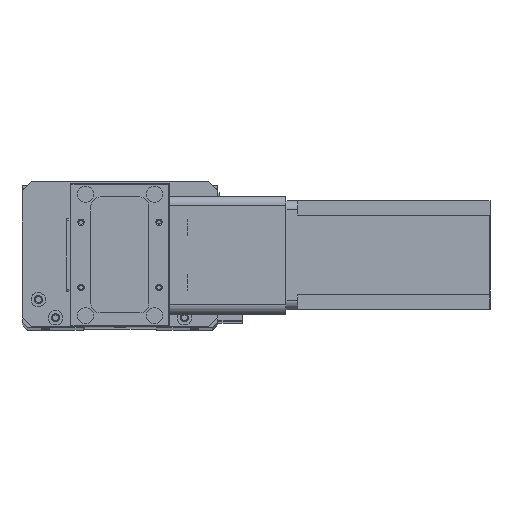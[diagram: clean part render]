
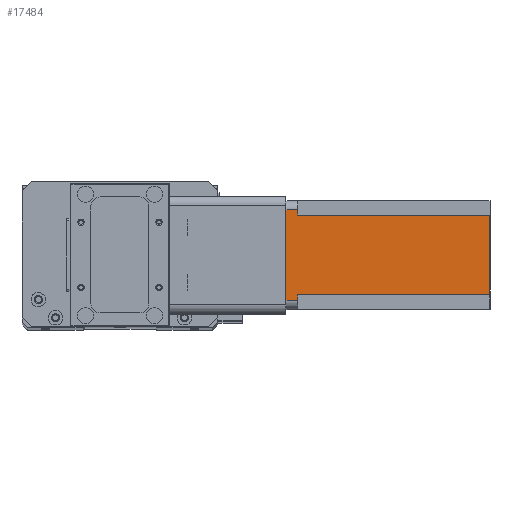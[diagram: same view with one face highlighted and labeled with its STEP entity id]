
A CAD part, top view. The second image highlights one B-rep face of the part: STEP entity #17484.
In plain terms, the highlighted planar face has unit normal (0, 0, 1) as drawn and (0, 1, 0) by its records, which use the part's own axes.
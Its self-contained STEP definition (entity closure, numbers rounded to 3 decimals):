
#161 = VERTEX_POINT ( 'NONE', #304 ) ;
#304 = CARTESIAN_POINT ( 'NONE',  ( 5., 60., 0. ) ) ;
#1188 = ORIENTED_EDGE ( 'NONE', *, *, #22652, .F. ) ;
#1353 = CARTESIAN_POINT ( 'NONE',  ( 55., 60., 0. ) ) ;
#2252 = VERTEX_POINT ( 'NONE', #16180 ) ;
#2262 = CARTESIAN_POINT ( 'NONE',  ( 8., 60., -112.5 ) ) ;
#2678 = VECTOR ( 'NONE', #18980, 1000. ) ;
#2908 = LINE ( 'NONE', #18390, #24086 ) ;
#3285 = AXIS2_PLACEMENT_3D ( 'NONE', #19737, #7450, #21821 ) ;
#3334 = DIRECTION ( 'NONE',  ( 1., 0., 0. ) ) ;
#4173 = CARTESIAN_POINT ( 'NONE',  ( 0., 60., -112.5 ) ) ;
#4193 = ORIENTED_EDGE ( 'NONE', *, *, #6981, .T. ) ;
#4781 = ORIENTED_EDGE ( 'NONE', *, *, #12497, .F. ) ;
#4916 = VERTEX_POINT ( 'NONE', #1353 ) ;
#5313 = EDGE_LOOP ( 'NONE', ( #1188, #22736, #11562, #15416, #8985, #4781, #4193, #6489 ) ) ;
#5802 = DIRECTION ( 'NONE',  ( -1., 0., 0. ) ) ;
#6189 = DIRECTION ( 'NONE',  ( -1., 0., 0. ) ) ;
#6423 = VERTEX_POINT ( 'NONE', #7968 ) ;
#6447 = DIRECTION ( 'NONE',  ( 0., 0., 1. ) ) ;
#6489 = ORIENTED_EDGE ( 'NONE', *, *, #21256, .T. ) ;
#6981 = EDGE_CURVE ( 'NONE', #2252, #19606, #14932, .T. ) ;
#7018 = VERTEX_POINT ( 'NONE', #24251 ) ;
#7186 = VERTEX_POINT ( 'NONE', #19085 ) ;
#7222 = VECTOR ( 'NONE', #21881, 1000. ) ;
#7450 = DIRECTION ( 'NONE',  ( 0., 1., 0. ) ) ;
#7968 = CARTESIAN_POINT ( 'NONE',  ( 52., 60., -6.5 ) ) ;
#8173 = VECTOR ( 'NONE', #3334, 1000. ) ;
#8668 = CARTESIAN_POINT ( 'NONE',  ( 55., 60., -112.5 ) ) ;
#8715 = EDGE_CURVE ( 'NONE', #4916, #22229, #13620, .T. ) ;
#8985 = ORIENTED_EDGE ( 'NONE', *, *, #9218, .T. ) ;
#9218 = EDGE_CURVE ( 'NONE', #7018, #7186, #12291, .T. ) ;
#10083 = VECTOR ( 'NONE', #5802, 1000. ) ;
#10491 = LINE ( 'NONE', #2262, #25622 ) ;
#10565 = CARTESIAN_POINT ( 'NONE',  ( 5., 60., -112.5 ) ) ;
#11562 = ORIENTED_EDGE ( 'NONE', *, *, #17472, .F. ) ;
#11658 = VECTOR ( 'NONE', #16460, 1000. ) ;
#12291 = LINE ( 'NONE', #4173, #11658 ) ;
#12356 = FACE_OUTER_BOUND ( 'NONE', #5313, .T. ) ;
#12497 = EDGE_CURVE ( 'NONE', #2252, #7186, #10491, .T. ) ;
#13014 = LINE ( 'NONE', #15636, #8173 ) ;
#13372 = EDGE_CURVE ( 'NONE', #7018, #6423, #18142, .T. ) ;
#13620 = LINE ( 'NONE', #8668, #2678 ) ;
#14932 = LINE ( 'NONE', #18061, #10083 ) ;
#15416 = ORIENTED_EDGE ( 'NONE', *, *, #13372, .F. ) ;
#15636 = CARTESIAN_POINT ( 'NONE',  ( 52., 60., -6.5 ) ) ;
#16180 = CARTESIAN_POINT ( 'NONE',  ( 8., 60., -6.5 ) ) ;
#16460 = DIRECTION ( 'NONE',  ( -1., 0., 0. ) ) ;
#17472 = EDGE_CURVE ( 'NONE', #6423, #22229, #13014, .T. ) ;
#17484 = ADVANCED_FACE ( 'NONE', ( #12356 ), #17702, .T. ) ;
#17702 = PLANE ( 'NONE',  #3285 ) ;
#18061 = CARTESIAN_POINT ( 'NONE',  ( 8., 60., -6.5 ) ) ;
#18142 = LINE ( 'NONE', #23940, #7222 ) ;
#18390 = CARTESIAN_POINT ( 'NONE',  ( 0., 60., 0. ) ) ;
#18674 = DIRECTION ( 'NONE',  ( 0., 0., -1. ) ) ;
#18980 = DIRECTION ( 'NONE',  ( 0., 0., -1. ) ) ;
#19085 = CARTESIAN_POINT ( 'NONE',  ( 8., 60., -112.5 ) ) ;
#19606 = VERTEX_POINT ( 'NONE', #26300 ) ;
#19737 = CARTESIAN_POINT ( 'NONE',  ( 0., 60., -112.5 ) ) ;
#21256 = EDGE_CURVE ( 'NONE', #19606, #161, #26565, .T. ) ;
#21821 = DIRECTION ( 'NONE',  ( 0., 0., 1. ) ) ;
#21881 = DIRECTION ( 'NONE',  ( 0., 0., 1. ) ) ;
#22229 = VERTEX_POINT ( 'NONE', #22267 ) ;
#22267 = CARTESIAN_POINT ( 'NONE',  ( 55., 60., -6.5 ) ) ;
#22652 = EDGE_CURVE ( 'NONE', #4916, #161, #2908, .T. ) ;
#22736 = ORIENTED_EDGE ( 'NONE', *, *, #8715, .T. ) ;
#23940 = CARTESIAN_POINT ( 'NONE',  ( 52., 60., -112.5 ) ) ;
#24086 = VECTOR ( 'NONE', #6189, 1000. ) ;
#24251 = CARTESIAN_POINT ( 'NONE',  ( 52., 60., -112.5 ) ) ;
#25622 = VECTOR ( 'NONE', #18674, 1000. ) ;
#25929 = VECTOR ( 'NONE', #6447, 1000. ) ;
#26300 = CARTESIAN_POINT ( 'NONE',  ( 5., 60., -6.5 ) ) ;
#26565 = LINE ( 'NONE', #10565, #25929 ) ;
